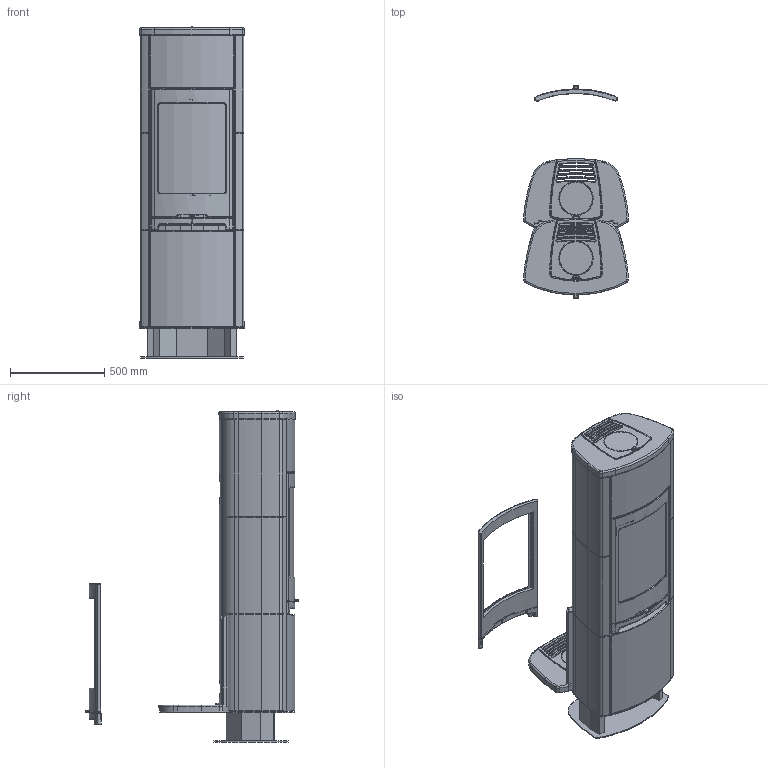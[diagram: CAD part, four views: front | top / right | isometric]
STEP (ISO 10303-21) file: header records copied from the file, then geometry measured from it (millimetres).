
FILE_DESCRIPTION( ( 'Unknown' ), '1' );
FILE_NAME( 'C:/Users/HAnilsd/AppData/Roaming/Unigraphics Solutions/Solid Edge/Insight/insight/insight/interior models/C790K Assembly.stp', 'Unknown', ( 'Unknown' ), ( 'Unknown' ), 'PSStep 13.0', 'Unknown', ' ' );
FILE_SCHEMA( ( 'AUTOMOTIVE_DESIGN { 1 0 10303 214 1 1 1 1 }' ) );
Length unit declared in the file: millimetre
Products named in the file (16): Assem1; Door C700; Glass C790; Stove body C790; Ceramic sides C790K; Back plate C790; Vermiculite C790; Fire C700; Ceramic top C790K; Lower front Ceramic C790K
Bounding box: 556.17 x 1127.04 x 1758.1 mm (x, y, z)
Volume: 418460452.7 mm3; surface area: 21239746.3 mm2
Topology: 30 solids, 30 shells, 2200 faces, 5440 edges, 3230 vertices
Faces by surface type: cylinder 584, plane 560, bspline 434, torus 346, sphere 106, cone 100, extrusion 68, revolution 2
Full cylindrical faces by diameter (mm): 5 x12, 10.1 x4, 15 x2, 65 x2, 150 x4, 168 x6, 170 x2, 204 x2, 208 x2
Entity records: 76975 total; most frequent: CARTESIAN_POINT 44087, ORIENTED_EDGE 5176, DIRECTION 4707, EDGE_CURVE 2588, AXIS2_PLACEMENT_3D 1867, VERTEX_POINT 1565, EDGE_LOOP 1195, FACE_OUTER_BOUND 1134
